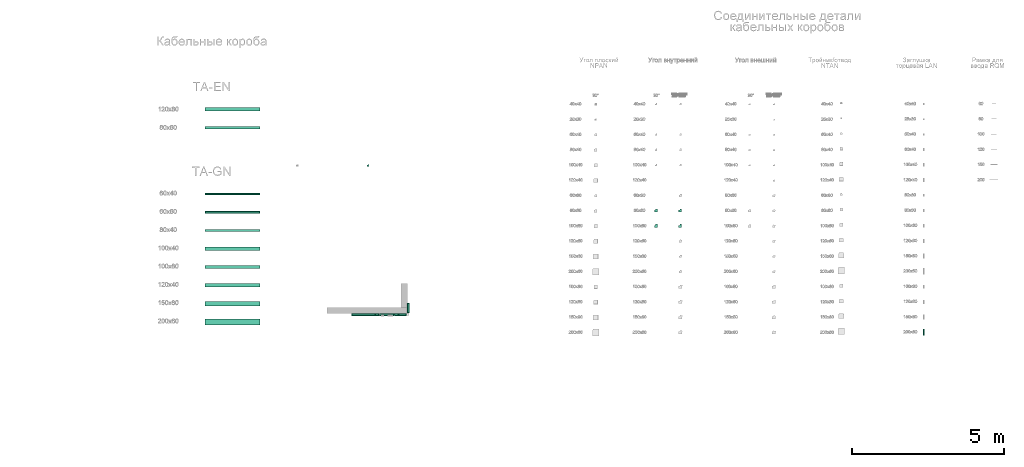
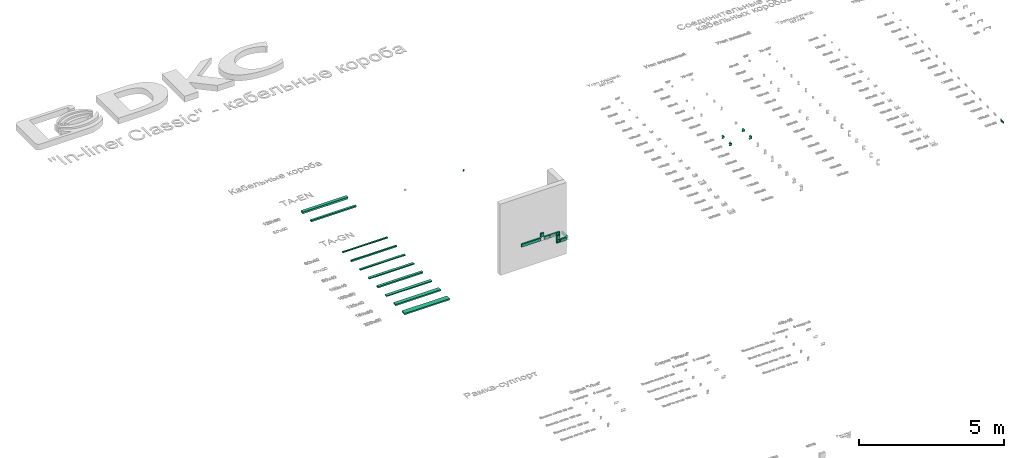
# One storey, part 2 of 71: 16 flow segments, 8 flow fittings.
"""IFC2X3 building model written with IfcOpenShell, lengths in millimetres."""

from ifc_helpers import new_model, entity, si_unit, converted_unit, derived_unit, direction, frame, frame_2d, origin, origin_2d_with_axis, place, context, subcontext, project, spatial, polyline, rectangle, outline, extrude, faceted_brep, source, transform, mapped, material, type_object, type_shapes, element, save


model = new_model("IFC2X3")

# Units and contexts
model_context = context("Model", 3, precision=0.01, world=origin(), true_north=direction((6.12303176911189e-17, 1.0)))
body_context = subcontext(model_context, "Body", "Model", "MODEL_VIEW")
ifc_project = project(units=[si_unit("LENGTHUNIT", "METRE", prefix="MILLI"), si_unit("AREAUNIT", "SQUARE_METRE"), si_unit("VOLUMEUNIT", "CUBIC_METRE"), converted_unit("PLANEANGLEUNIT", "DEGREE", entity("IfcRatioMeasure", 0.0174532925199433), si_unit("PLANEANGLEUNIT", "RADIAN"), dimensions=[0, 0, 0, 0, 0, 0, 0]), si_unit("MASSUNIT", "GRAM", prefix="KILO"), derived_unit("MASSDENSITYUNIT", [(si_unit("MASSUNIT", "GRAM", prefix="KILO"), 1), (si_unit("LENGTHUNIT", "METRE"), -3)]), si_unit("TIMEUNIT", "SECOND"), si_unit("FREQUENCYUNIT", "HERTZ"), si_unit("THERMODYNAMICTEMPERATUREUNIT", "DEGREE_CELSIUS"), derived_unit("THERMALTRANSMITTANCEUNIT", [(si_unit("MASSUNIT", "GRAM", prefix="KILO"), 1), (si_unit("THERMODYNAMICTEMPERATUREUNIT", "KELVIN"), -1), (si_unit("TIMEUNIT", "SECOND"), -3)]), derived_unit("VOLUMETRICFLOWRATEUNIT", [(si_unit("LENGTHUNIT", "METRE"), 3), (si_unit("TIMEUNIT", "SECOND"), -1)]), si_unit("ELECTRICCURRENTUNIT", "AMPERE"), si_unit("ELECTRICVOLTAGEUNIT", "VOLT"), si_unit("POWERUNIT", "WATT"), si_unit("FORCEUNIT", "NEWTON", prefix="KILO"), si_unit("ILLUMINANCEUNIT", "LUX"), si_unit("LUMINOUSFLUXUNIT", "LUMEN"), si_unit("LUMINOUSINTENSITYUNIT", "CANDELA"), derived_unit("USERDEFINED", [(si_unit("MASSUNIT", "GRAM", prefix="KILO"), -1), (si_unit("LENGTHUNIT", "METRE"), -2), (si_unit("TIMEUNIT", "SECOND"), 3), (si_unit("LUMINOUSFLUXUNIT", "LUMEN"), 1)]), derived_unit("LINEARVELOCITYUNIT", [(si_unit("LENGTHUNIT", "METRE"), 1), (si_unit("TIMEUNIT", "SECOND"), -1)]), si_unit("PRESSUREUNIT", "PASCAL"), derived_unit("USERDEFINED", [(si_unit("LENGTHUNIT", "METRE"), -2), (si_unit("MASSUNIT", "GRAM", prefix="KILO"), 1), (si_unit("TIMEUNIT", "SECOND"), -2)])], contexts=[model_context])

# Site, building, storey
site_placement = place(None, origin())
site = spatial("IfcSite", under=ifc_project, at=site_placement, Name="Default", CompositionType="ELEMENT")
building_placement = place(site_placement, origin())
building = spatial("IfcBuilding", under=site, at=building_placement, Name="Наименование здания", CompositionType="ELEMENT")
storey_placement = place(building_placement, origin())
storey = spatial("IfcBuildingStorey", under=building, at=storey_placement, Name="Этаж 01", CompositionType="ELEMENT", Elevation=0.0)

# Flow segments
cable_carrier_segment_type_1 = type_object("IfcCableCarrierSegmentType", Name="Кабельный лоток с соединительными деталями:Короб с крышкой, с направляющими для установки разделителей, TA-GN", PredefinedType="CABLETRAYSEGMENT")
flow_segment_1_placement = place(storey_placement, origin())
element("IfcFlowSegment", 1, at=flow_segment_1_placement, inside=storey, type_object=cable_carrier_segment_type_1, Name="Кабельный лоток с соединительными деталями:Короб с крышкой, с направляющими для установки разделителей, TA-GN", ObjectType="Кабельный лоток с соединительными деталями:Короб с крышкой, с направляющими для установки разделителей, TA-GN", context=body_context, shape_type="SweptSolid", body=[
    extrude(rectangle(XDim=1800.0, YDim=60.0, at=frame_2d((-1.13686837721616e-13, 0.0), x_axis=(1.0, 0.0))), frame((1869.00221242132, 124.793826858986, -20.0)), (0.0, 0.0, 1.0), 40.0),
])
flow_segment_2_placement = place(storey_placement, origin())
element("IfcFlowSegment", 2, at=flow_segment_2_placement, inside=storey, type_object=cable_carrier_segment_type_1, Name="Кабельный лоток с соединительными деталями:Короб с крышкой, с направляющими для установки разделителей, TA-GN", ObjectType="Кабельный лоток с соединительными деталями:Короб с крышкой, с направляющими для установки разделителей, TA-GN", context=body_context, shape_type="SweptSolid", body=[
    extrude(rectangle(XDim=1800.0, YDim=60.0, at=frame_2d((-1.13686837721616e-13, 0.0), x_axis=(1.0, 0.0))), frame((1869.00221242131, -475.206173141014, -30.0)), (0.0, 0.0, 1.0), 60.0),
])
flow_segment_3_placement = place(storey_placement, origin())
element("IfcFlowSegment", 3, at=flow_segment_3_placement, inside=storey, type_object=cable_carrier_segment_type_1, Name="Кабельный лоток с соединительными деталями:Короб с крышкой, с направляющими для установки разделителей, TA-GN", ObjectType="Кабельный лоток с соединительными деталями:Короб с крышкой, с направляющими для установки разделителей, TA-GN", context=body_context, shape_type="SweptSolid", body=[
    extrude(rectangle(XDim=1800.0, YDim=79.9999999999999, at=frame_2d((-1.13686837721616e-13, -6.75015598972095e-14), x_axis=(1.0, 0.0))), frame((1869.00221242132, -1075.20617314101, -20.0)), (0.0, 0.0, 1.0), 40.0),
])
flow_segment_4_placement = place(storey_placement, origin())
element("IfcFlowSegment", 4, at=flow_segment_4_placement, inside=storey, type_object=cable_carrier_segment_type_1, Name="Кабельный лоток с соединительными деталями:Короб с крышкой, с направляющими для установки разделителей, TA-GN", ObjectType="Кабельный лоток с соединительными деталями:Короб с крышкой, с направляющими для установки разделителей, TA-GN", context=body_context, shape_type="SweptSolid", body=[
    extrude(rectangle(XDim=1800.0, YDim=100.0, at=frame_2d((-1.13686837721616e-13, 1.3855583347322e-13), x_axis=(1.0, 0.0))), frame((1869.00221242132, -1675.20617314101, -20.0)), (0.0, 0.0, 1.0), 40.0),
])
flow_segment_5_placement = place(storey_placement, origin())
element("IfcFlowSegment", 5, at=flow_segment_5_placement, inside=storey, type_object=cable_carrier_segment_type_1, Name="Кабельный лоток с соединительными деталями:Короб с крышкой, с направляющими для установки разделителей, TA-GN", ObjectType="Кабельный лоток с соединительными деталями:Короб с крышкой, с направляющими для установки разделителей, TA-GN", context=body_context, shape_type="SweptSolid", body=[
    extrude(rectangle(XDim=1800.0, YDim=100.0, at=frame_2d((-1.13686837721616e-13, 1.3855583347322e-13), x_axis=(1.0, 0.0))), frame((1869.00221242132, -2275.20617314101, -30.0)), (0.0, 0.0, 1.0), 60.0),
])
flow_segment_6_placement = place(storey_placement, origin())
element("IfcFlowSegment", 6, at=flow_segment_6_placement, inside=storey, type_object=cable_carrier_segment_type_1, Name="Кабельный лоток с соединительными деталями:Короб с крышкой, с направляющими для установки разделителей, TA-GN", ObjectType="Кабельный лоток с соединительными деталями:Короб с крышкой, с направляющими для установки разделителей, TA-GN", context=body_context, shape_type="SweptSolid", body=[
    extrude(rectangle(XDim=1800.0, YDim=120.0, at=frame_2d((-1.13686837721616e-13, -2.70006239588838e-13), x_axis=(1.0, 0.0))), frame((1869.00221242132, -2875.20617314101, -20.0)), (0.0, 0.0, 1.0), 40.0),
])
flow_segment_7_placement = place(storey_placement, origin())
element("IfcFlowSegment", 7, at=flow_segment_7_placement, inside=storey, type_object=cable_carrier_segment_type_1, Name="Кабельный лоток с соединительными деталями:Короб с крышкой, с направляющими для установки разделителей, TA-GN", ObjectType="Кабельный лоток с соединительными деталями:Короб с крышкой, с направляющими для установки разделителей, TA-GN", context=body_context, shape_type="SweptSolid", body=[
    extrude(rectangle(XDim=1800.0, YDim=149.999999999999, at=frame_2d((-1.13686837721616e-13, 2.70006239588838e-13), x_axis=(1.0, 0.0))), frame((1869.00221242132, -3475.20617314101, -30.0)), (0.0, 0.0, 1.0), 60.0),
])
flow_segment_8_placement = place(storey_placement, origin())
element("IfcFlowSegment", 8, at=flow_segment_8_placement, inside=storey, type_object=cable_carrier_segment_type_1, Name="Кабельный лоток с соединительными деталями:Короб с крышкой, с направляющими для установки разделителей, TA-GN", ObjectType="Кабельный лоток с соединительными деталями:Короб с крышкой, с направляющими для установки разделителей, TA-GN", context=body_context, shape_type="SweptSolid", body=[
    extrude(rectangle(XDim=1800.0, YDim=200.0, at=frame_2d((-1.13686837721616e-13, -2.77111666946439e-13), x_axis=(1.0, 0.0))), frame((1869.00221242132, -4075.20617314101, -30.0)), (0.0, 0.0, 1.0), 60.0),
])

# Flow fitting
ifc_material = material(Name="DKC_Пластик_Белый")
cable_carrier_fitting_type_1 = type_object("IfcCableCarrierFittingType", Name="Угол внутренний_DKC", PredefinedType="NOTDEFINED", material=ifc_material)
shared_shape_1 = source(origin(), body_context, "Body", "Brep", [
    faceted_brep([(-50.0, -20.0, 20.0), (-50.0, 20.0, 20.0), (-50.0, 20.0, 17.500000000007), (-50.0, -17.4999999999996, 17.500000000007), (-50.0, -17.4999999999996, -17.499999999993), (-50.0, 20.0, -17.499999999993), (-50.0, 20.0, -20.0), (-50.0, -20.0, -20.0), (20.0, 50.0, 20.0), (20.0, 50.0, -20.0), (-20.0, 50.0, -20.0), (-20.0, 50.0, -17.499999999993), (17.5000000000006, 50.0, -17.499999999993), (17.5000000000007, 50.0, 17.500000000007), (-20.0, 50.0, 17.500000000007), (-20.0, 50.0, 20.0), (20.0, -20.0, 20.0), (-20.0, 20.0, 20.0), (-20.0, 20.0, 17.500000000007), (17.5000000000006, -17.5000000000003, 17.500000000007), (17.5000000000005, -17.4999999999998, -17.499999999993), (-20.0, 20.0, -17.499999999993), (-20.0, 20.0, -20.0), (20.0, -20.0, -20.0)], [[[0, 1, 2, 3, 4, 5, 6, 7]], [[8, 9, 10, 11, 12, 13, 14, 15]], [[1, 0, 16, 8, 15, 17]], [[2, 1, 17, 18]], [[3, 2, 18, 14, 13, 19]], [[4, 3, 19, 20]], [[5, 4, 20, 12, 11, 21]], [[6, 5, 21, 22]], [[7, 6, 22, 10, 9, 23]], [[0, 7, 23, 16]], [[18, 17, 15, 14]], [[20, 19, 13, 12]], [[22, 21, 11, 10]], [[16, 23, 9, 8]]]),
])
type_shapes(cable_carrier_fitting_type_1, [shared_shape_1])
flow_fitting_1_placement = place(storey_placement, frame((6338.48039551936, 1049.71180970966, 1000.0)))
element("IfcFlowFitting", 9, at=flow_fitting_1_placement, inside=storey, type_object=cable_carrier_fitting_type_1, material=ifc_material, Name="КНС_УголВнутренний_ILC_DKC:Угол внутренний_DKC", ObjectType="Угол внутренний_DKC", context=body_context, shape_type="MappedRepresentation", body=[
    mapped(shared_shape_1, transform((0.0, 0.0, 0.0), scale=1.0)),
])

# Flow segments
cable_carrier_segment_type_2 = type_object("IfcCableCarrierSegmentType", Name="Кабельный лоток с соединительными деталями:Короб с крышкой с плоской основой, TA-EN", PredefinedType="CABLETRAYSEGMENT")
flow_segment_9_placement = place(storey_placement, origin())
element("IfcFlowSegment", 10, at=flow_segment_9_placement, inside=storey, type_object=cable_carrier_segment_type_2, Name="Кабельный лоток с соединительными деталями:Короб с крышкой с плоской основой, TA-EN", ObjectType="Кабельный лоток с соединительными деталями:Короб с крышкой с плоской основой, TA-EN", context=body_context, shape_type="SweptSolid", body=[
    extrude(rectangle(XDim=1800.0, YDim=80.0000000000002, at=frame_2d((0.0, 1.35003119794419e-13), x_axis=(1.0, 0.0))), frame((1869.00221242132, 2304.79382685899, -30.0)), (0.0, 0.0, 1.0), 60.0),
])
flow_segment_10_placement = place(storey_placement, origin())
element("IfcFlowSegment", 11, at=flow_segment_10_placement, inside=storey, type_object=cable_carrier_segment_type_2, Name="Кабельный лоток с соединительными деталями:Короб с крышкой с плоской основой, TA-EN", ObjectType="Кабельный лоток с соединительными деталями:Короб с крышкой с плоской основой, TA-EN", context=body_context, shape_type="SweptSolid", body=[
    extrude(rectangle(XDim=60.0000000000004, YDim=120.000000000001, at=origin_2d_with_axis()), frame((7254.76236313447, -3839.74530671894, 755.050073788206), z_axis=(0.0, 0.0, 1.0), x_axis=(0.0, 1.0, 0.0)), (0.0, 0.0, 1.0), 164.949926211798),
])
flow_segment_11_placement = place(storey_placement, origin())
element("IfcFlowSegment", 12, at=flow_segment_11_placement, inside=storey, type_object=cable_carrier_segment_type_2, Name="Кабельный лоток с соединительными деталями:Короб с крышкой с плоской основой, TA-EN", ObjectType="Кабельный лоток с соединительными деталями:Короб с крышкой с плоской основой, TA-EN", context=body_context, shape_type="SweptSolid", body=[
    extrude(rectangle(XDim=250.000000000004, YDim=60.0000000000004, at=origin_2d_with_axis()), frame((7459.76236313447, -3839.74530671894, 615.050073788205)), (0.0, 0.0, 1.0), 120.0),
])
flow_segment_12_placement = place(storey_placement, origin())
element("IfcFlowSegment", 13, at=flow_segment_12_placement, inside=storey, type_object=cable_carrier_segment_type_2, Name="Кабельный лоток с соединительными деталями:Короб с крышкой с плоской основой, TA-EN", ObjectType="Кабельный лоток с соединительными деталями:Короб с крышкой с плоской основой, TA-EN", context=body_context, shape_type="SweptSolid", body=[
    extrude(rectangle(XDim=310.0, YDim=59.9999999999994, at=frame_2d((5.40012479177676e-13, -5.41788836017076e-13), x_axis=(1.0, 0.0))), frame((7644.76236313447, -3624.74530671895, 615.050073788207), z_axis=(0.0, 0.0, 1.0), x_axis=(0.0, -1.0, 0.0)), (0.0, 0.0, 1.0), 120.0),
])
flow_segment_13_placement = place(storey_placement, origin())
element("IfcFlowSegment", 14, at=flow_segment_13_placement, inside=storey, type_object=cable_carrier_segment_type_2, Name="Кабельный лоток с соединительными деталями:Короб с крышкой с плоской основой, TA-EN", ObjectType="Кабельный лоток с соединительными деталями:Короб с крышкой с плоской основой, TA-EN", context=body_context, shape_type="SweptSolid", body=[
    extrude(rectangle(XDim=758.526764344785, YDim=60.0000000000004, at=frame_2d((-5.40012479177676e-13, 2.71782596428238e-13), x_axis=(1.0, 0.0))), frame((6175.49898096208, -3839.74530671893, 940.0)), (0.0, 0.0, 1.0), 120.0),
])
flow_segment_14_placement = place(storey_placement, origin())
element("IfcFlowSegment", 15, at=flow_segment_14_placement, inside=storey, type_object=cable_carrier_segment_type_2, Name="Кабельный лоток с соединительными деталями:Короб с крышкой с плоской основой, TA-EN", ObjectType="Кабельный лоток с соединительными деталями:Короб с крышкой с плоской основой, TA-EN", context=body_context, shape_type="SweptSolid", body=[
    extrude(rectangle(XDim=479.999999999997, YDim=60.0000000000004, at=origin_2d_with_axis()), frame((6934.76236313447, -3839.74530671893, 940.0), z_axis=(0.0, 0.0, 1.0), x_axis=(-1.0, 0.0, 0.0)), (0.0, 0.0, 1.0), 120.0),
])
flow_segment_15_placement = place(storey_placement, origin())
element("IfcFlowSegment", 16, at=flow_segment_15_placement, inside=storey, type_object=cable_carrier_segment_type_2, Name="Кабельный лоток с соединительными деталями:Короб с крышкой с плоской основой, TA-EN", ObjectType="Кабельный лоток с соединительными деталями:Короб с крышкой с плоской основой, TA-EN", context=body_context, shape_type="SweptSolid", body=[
    extrude(rectangle(XDim=60.0000000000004, YDim=120.000000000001, at=origin_2d_with_axis()), frame((6624.76236313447, -3839.74530671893, 1080.0), z_axis=(0.0, 0.0, 1.0), x_axis=(0.0, 1.0, 0.0)), (0.0, 0.0, 1.0), 164.949926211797),
])
flow_segment_16_placement = place(storey_placement, origin())
element("IfcFlowSegment", 17, at=flow_segment_16_placement, inside=storey, type_object=cable_carrier_segment_type_2, Name="Кабельный лоток с соединительными деталями:Короб с крышкой с плоской основой, TA-EN", ObjectType="Кабельный лоток с соединительными деталями:Короб с крышкой с плоской основой, TA-EN", context=body_context, shape_type="SweptSolid", body=[
    extrude(rectangle(XDim=1800.0, YDim=120.0, at=frame_2d((-1.70530256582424e-13, -2.70006239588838e-13), x_axis=(1.0, 0.0))), frame((1869.00221242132, 2904.79382685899, -40.0)), (0.0, 0.0, 1.0), 80.0),
])

# Flow fittings
cable_carrier_fitting_type_2 = type_object("IfcCableCarrierFittingType", Name="Угол плоский NPAN_DKC", PredefinedType="NOTDEFINED", material=ifc_material)
shared_shape_2 = source(origin(), body_context, "Body", "Brep", [
    faceted_brep([(-80.0, -60.0, -30.0), (-80.0, -60.0, 30.0), (-80.0, -57.4600000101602, 30.0), (-80.0, -57.4600000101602, -27.4600000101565), (-80.0, 57.4600000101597, -27.4600000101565), (-80.0, 57.4600000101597, 30.0), (-80.0, 60.0, 30.0), (-80.0, 60.0, -30.0), (60.0, 60.0, -30.0), (60.0, -80.0, -30.0), (-60.0, -80.0, -30.0), (-60.0, -60.0, -30.0), (60.0, 60.0, 30.0), (57.4600000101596, 57.4600000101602, 30.0), (57.4600000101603, -80.0, 30.0), (60.0, -80.0, 30.0), (57.4600000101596, 57.4600000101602, -27.4600000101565), (-57.4600000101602, -57.4600000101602, -27.4600000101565), (-57.4600000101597, -80.0, -27.4600000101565), (57.4600000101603, -80.0, -27.4600000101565), (-57.4600000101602, -57.4600000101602, 30.0), (-60.0, -60.0, 30.0), (-60.0, -80.0, 30.0), (-57.4600000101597, -80.0, 30.0)], [[[0, 1, 2, 3, 4, 5, 6, 7]], [[7, 8, 9, 10, 11, 0]], [[6, 12, 8, 7]], [[5, 13, 14, 15, 12, 6]], [[4, 16, 13, 5]], [[3, 17, 18, 19, 16, 4]], [[2, 20, 17, 3]], [[1, 21, 22, 23, 20, 2]], [[0, 11, 21, 1]], [[10, 9, 15, 14, 19, 18, 23, 22]], [[12, 15, 9, 8]], [[16, 19, 14, 13]], [[20, 23, 18, 17]], [[11, 10, 22, 21]]]),
])
type_shapes(cable_carrier_fitting_type_2, [shared_shape_2])
for number, where, z_axis, x_axis in (
    (18, (7254.76236313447, -3839.74530671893, 1000.0), (0.0, -1.0, 0.0), (1.0, 0.0, 0.0)),
    (19, (7254.76236313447, -3839.74530671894, 675.050073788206), (0.0, -1.0, 0.0), (-1.0, 0.0, 0.0)),
):
    element("IfcFlowFitting", number, at=place(storey_placement, frame(where, z_axis=z_axis, x_axis=x_axis)), inside=storey, type_object=cable_carrier_fitting_type_2, material=ifc_material, Name="КНС_УголПлоский NPAN_ILC_DKC:Угол плоский NPAN_DKC", ObjectType="Угол плоский NPAN_DKC", context=body_context, shape_type="MappedRepresentation", body=[
        mapped(shared_shape_2, transform((0.0, 0.0, 0.0), scale=1.0)),
    ])
cable_carrier_fitting_type_3 = type_object("IfcCableCarrierFittingType", Name="Угол внутренний_DKC", PredefinedType="NOTDEFINED", material=ifc_material)
shared_shape_3 = source(origin(), body_context, "Body", "Brep", [
    faceted_brep([(-70.0, -30.0, 40.0), (-70.0, 30.0, 40.0), (-70.0, 30.0, 37.5000000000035), (-70.0, -27.4999999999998, 37.5000000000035), (-70.0, -27.4999999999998, -37.4999999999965), (-70.0, 30.0, -37.4999999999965), (-70.0, 30.0, -40.0), (-70.0, -30.0, -40.0), (30.0, 70.0, 40.0), (30.0, 70.0, -40.0), (-30.0, 70.0, -40.0), (-30.0, 70.0, -37.4999999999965), (27.5000000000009, 70.0, -37.4999999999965), (27.5000000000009, 70.0, 37.5000000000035), (-30.0, 70.0, 37.5000000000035), (-30.0, 70.0, 40.0), (30.0, -30.0, 40.0), (-30.0, 30.0, 40.0), (-30.0, 30.0, 37.5000000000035), (27.5000000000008, -27.5000000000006, 37.5000000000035), (27.5000000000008, -27.5000000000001, -37.4999999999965), (-30.0, 30.0, -37.4999999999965), (-30.0, 30.0, -40.0), (30.0, -30.0, -40.0)], [[[0, 1, 2, 3, 4, 5, 6, 7]], [[8, 9, 10, 11, 12, 13, 14, 15]], [[1, 0, 16, 8, 15, 17]], [[2, 1, 17, 18]], [[3, 2, 18, 14, 13, 19]], [[4, 3, 19, 20]], [[5, 4, 20, 12, 11, 21]], [[6, 5, 21, 22]], [[7, 6, 22, 10, 9, 23]], [[0, 7, 23, 16]], [[18, 17, 15, 14]], [[20, 19, 13, 12]], [[22, 21, 11, 10]], [[16, 23, 9, 8]]]),
])
type_shapes(cable_carrier_fitting_type_3, [shared_shape_3])
for number, where in (
    (20, (15800.2023027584, -439.208817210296, 0.0)),
    (21, (16600.2023027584, -439.208817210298, 0.0)),
):
    element("IfcFlowFitting", number, at=place(storey_placement, frame(where)), inside=storey, type_object=cable_carrier_fitting_type_3, material=ifc_material, Name="КНС_УголВнутренний_ILC_DKC:Угол внутренний_DKC", ObjectType="Угол внутренний_DKC", context=body_context, shape_type="MappedRepresentation", body=[
        mapped(shared_shape_3, transform((0.0, 0.0, 0.0), scale=1.0)),
    ])
cable_carrier_fitting_type_4 = type_object("IfcCableCarrierFittingType", Name="Угол внутренний_DKC", PredefinedType="NOTDEFINED", material=ifc_material)
shared_shape_4 = source(origin(), body_context, "Body", "Brep", [
    faceted_brep([(-70.0, -30.0, 50.0), (-70.0, 30.0, 50.0), (-70.0, 30.0, 47.5000000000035), (-70.0, -27.4999999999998, 47.5000000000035), (-70.0, -27.4999999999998, -47.4999999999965), (-70.0, 30.0, -47.4999999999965), (-70.0, 30.0, -50.0), (-70.0, -30.0, -50.0), (30.0, 70.0, 50.0), (30.0, 70.0, -50.0), (-30.0, 70.0, -50.0), (-30.0, 70.0, -47.4999999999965), (27.5000000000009, 70.0, -47.4999999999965), (27.5000000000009, 70.0, 47.5000000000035), (-30.0, 70.0, 47.5000000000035), (-30.0, 70.0, 50.0), (30.0, -30.0, 50.0), (-30.0, 30.0, 50.0), (-30.0, 30.0, 47.5000000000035), (27.5000000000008, -27.5000000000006, 47.5000000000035), (27.5000000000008, -27.5000000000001, -47.4999999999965), (-30.0, 30.0, -47.4999999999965), (-30.0, 30.0, -50.0), (30.0, -30.0, -50.0)], [[[0, 1, 2, 3, 4, 5, 6, 7]], [[8, 9, 10, 11, 12, 13, 14, 15]], [[1, 0, 16, 8, 15, 17]], [[2, 1, 17, 18]], [[3, 2, 18, 14, 13, 19]], [[4, 3, 19, 20]], [[5, 4, 20, 12, 11, 21]], [[6, 5, 21, 22]], [[7, 6, 22, 10, 9, 23]], [[0, 7, 23, 16]], [[18, 17, 15, 14]], [[20, 19, 13, 12]], [[22, 21, 11, 10]], [[16, 23, 9, 8]]]),
])
type_shapes(cable_carrier_fitting_type_4, [shared_shape_4])
for number, where in (
    (22, (15800.2023027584, -939.208817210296, 0.0)),
    (23, (16600.2023027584, -939.208817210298, 0.0)),
):
    element("IfcFlowFitting", number, at=place(storey_placement, frame(where)), inside=storey, type_object=cable_carrier_fitting_type_4, material=ifc_material, Name="КНС_УголВнутренний_ILC_DKC:Угол внутренний_DKC", ObjectType="Угол внутренний_DKC", context=body_context, shape_type="MappedRepresentation", body=[
        mapped(shared_shape_4, transform((0.0, 0.0, 0.0), scale=1.0)),
    ])
cable_carrier_fitting_type_5 = type_object("IfcCableCarrierFittingType", Name="Заглушка торцевая LAN_DKC", PredefinedType="NOTDEFINED", material=ifc_material)
shared_shape_5 = source(origin(), body_context, "Body", "SweptSolid", [
    extrude(outline(polyline([(-40.6250000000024, -100.0), (39.3749999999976, -100.0), (39.3749999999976, -97.5000000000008), (-38.1249999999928, -97.5000000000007), (-38.1249999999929, 97.4999999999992), (39.3749999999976, 97.4999999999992), (39.3749999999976, 100.0), (-40.6250000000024, 100.0), (-40.6250000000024, -100.0)])), frame((-32.4999999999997, 0.0, 0.625000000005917), z_axis=(1.0, 0.0, 0.0), x_axis=(0.0, 0.0, 1.0)), (0.0, 0.0, 1.0), 32.5000000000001),
    extrude(rectangle(XDim=2.50000000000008, YDim=195.0, at=frame_2d((0.0, 7.105427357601e-15), x_axis=(1.0, 0.0))), frame((-1.24999999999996, 0.0, -40.0), z_axis=(0.0, 0.0, 1.0), x_axis=(-1.0, 0.0, 0.0)), (0.0, 0.0, 1.0), 80.0),
])
type_shapes(cable_carrier_fitting_type_5, [shared_shape_5])
flow_fitting_2_placement = place(storey_placement, frame((24603.0645546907, -4419.20881721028, 0.0)))
element("IfcFlowFitting", 24, at=flow_fitting_2_placement, inside=storey, type_object=cable_carrier_fitting_type_5, material=ifc_material, Name="КНС_ЗаглушкаТорцеваяLAN_ILC_DKC:Заглушка торцевая LAN_DKC", ObjectType="Заглушка торцевая LAN_DKC", context=body_context, shape_type="MappedRepresentation", body=[
    mapped(shared_shape_5, transform((0.0, 0.0, 0.0), scale=1.0)),
])

save(model, "model.ifc")
